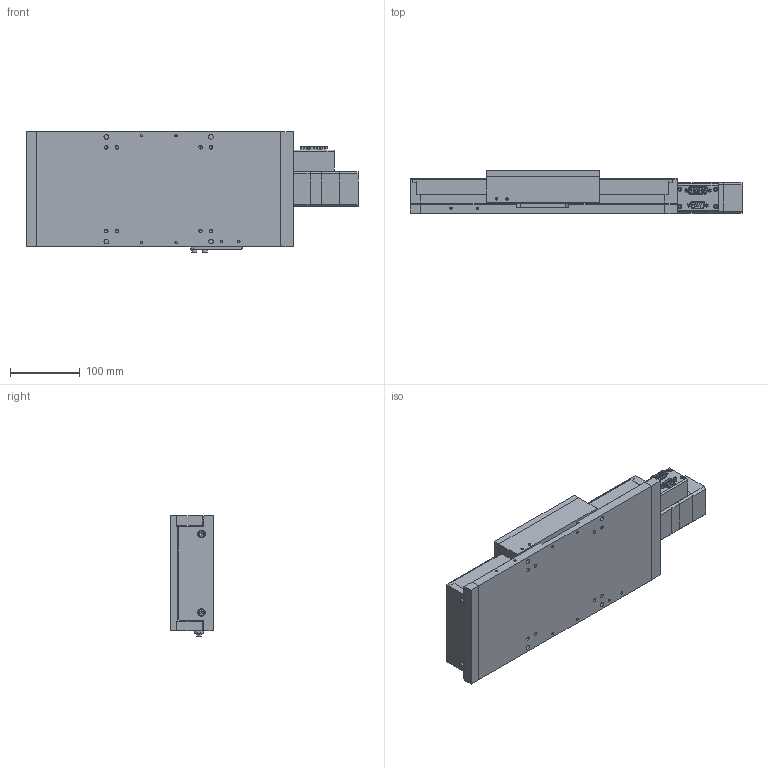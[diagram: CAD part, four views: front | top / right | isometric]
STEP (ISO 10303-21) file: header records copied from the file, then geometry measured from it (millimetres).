
FILE_DESCRIPTION (( 'STEP AP214' ), '1' );
FILE_NAME ('LM3-150-BS-A-H-S-G-EXPORT.STEP', '2024-05-07T14:57:09', ( 'lab' ), ( '' ), 'SwSTEP 2.0', 'SolidWorks 2018', '' );
FILE_SCHEMA (( 'AUTOMOTIVE_DESIGN' ));
Length unit declared in the file: millimetre
Products named in the file (17): 1000006; 1000005; 1000011; 1000015; 1000014_91290A150; 1000008; LM3-150-BS-A-H-S-G-EXPORT; 1000017; 1000003_91290A148; 1000002; 1000010; 1000012_150; 1000013; 1000007; 1000004; 1000001; 1000009
Assembly tree (28 placements, depth 3):
  LM3-150-BS-A-H-S-G-EXPORT
    1000017
      1000004
      1000005
      1000006
      1000007
      1000008
      1000009  x4
      1000010
      1000011
      1000012_150
      1000013
      1000014_91290A150  x8
      1000015
      1000003_91290A148  x2
      1000001  x2
      1000002
Bounding box: 475.6 x 62 x 173 mm (x, y, z)
Volume: 3464573.3 mm3; surface area: 377963.4 mm2
Topology: 79 solids, 79 shells, 1702 faces, 3886 edges, 2394 vertices
Faces by surface type: plane 899, cylinder 441, cone 192, bspline 170
Entity records: 51907 total; most frequent: CARTESIAN_POINT 12970, DIRECTION 6490, ORIENTED_EDGE 6376, EDGE_CURVE 3188, AXIS2_PLACEMENT_3D 2279, VERTEX_POINT 2031, LINE 1932, VECTOR 1932
